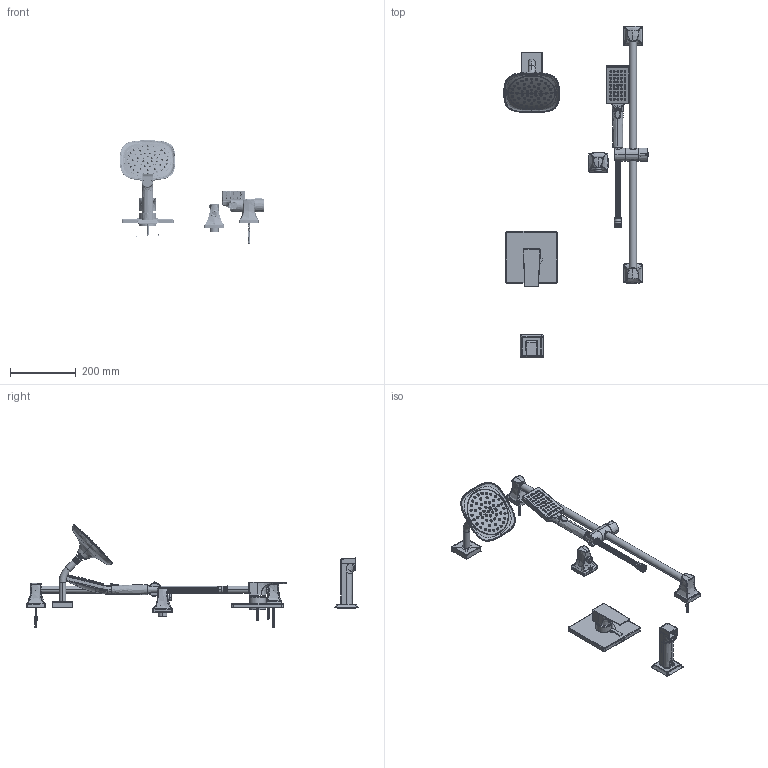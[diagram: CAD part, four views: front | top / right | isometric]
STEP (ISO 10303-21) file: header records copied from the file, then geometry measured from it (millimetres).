
FILE_DESCRIPTION (( 'STEP AP214' ), '1' );
FILE_NAME ('S4994TRM.STEP', '2025-01-02T04:04:39', ( '' ), ( '' ), 'SwSTEP 2.0', 'SolidWorks 2023', '' );
FILE_SCHEMA (( 'AUTOMOTIVE_DESIGN' ));
Products named in the file (1): S4994TRM
Bounding box: 440.44 x 1013.11 x 315.25 mm (x, y, z)
Surface area: 543639.3 mm2 (no closed solid volume)
Topology: 0 solids, 318 shells, 1834 faces, 6689 edges, 5047 vertices
Faces by surface type: bspline 523, plane 441, cylinder 408, cone 355, torus 101, sphere 6
Entity records: 250424 total; most frequent: CARTESIAN_POINT 201881, ORIENTED_EDGE 9554, DIRECTION 7927, EDGE_CURVE 6680, VERTEX_POINT 5046, AXIS2_PLACEMENT_3D 3069, B_SPLINE_CURVE_WITH_KNOTS 2847, EDGE_LOOP 2193
